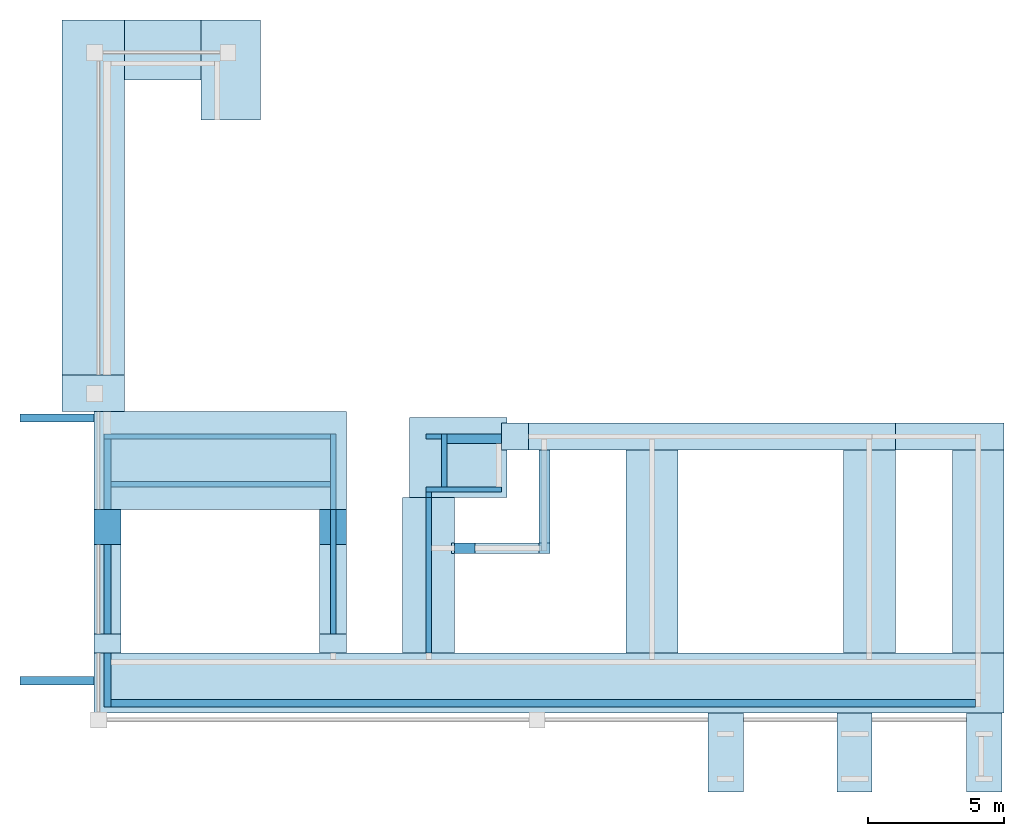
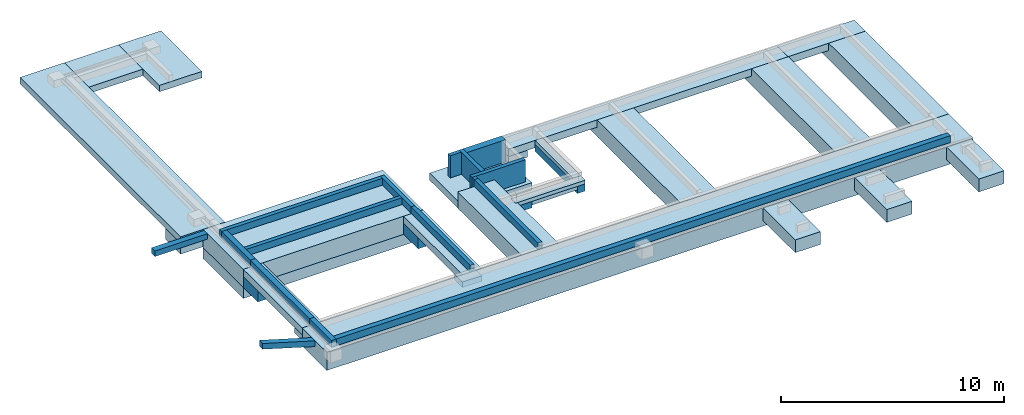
# One storey, part 1 of 4: 15 footings, 14 slabs, 14 walls, 2 beams.
"""IFC2X3 building model written with IfcOpenShell, lengths in metres."""

from ifc_helpers import new_model, entity, si_unit, converted_unit, derived_unit, direction, frame, frame_2d, origin, origin_2d_with_axis, place, context, subcontext, project, spatial, polyline, rectangle, outline, extrude, clip, halfspace, faceted_brep, material, layer, layer_set, layer_usage, type_object, element, save


model = new_model("IFC2X3")

# Units and contexts
model_context = context("Model", 3, precision=1e-05, world=origin(), true_north=direction((6.12303176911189e-17, 1.0)))
body_context = subcontext(model_context, "Body", "Model", "MODEL_VIEW")
ifc_project = project(units=[si_unit("LENGTHUNIT", "METRE"), si_unit("AREAUNIT", "SQUARE_METRE"), si_unit("VOLUMEUNIT", "CUBIC_METRE"), converted_unit("PLANEANGLEUNIT", "DEGREE", entity("IfcRatioMeasure", 0.0174532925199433), si_unit("PLANEANGLEUNIT", "RADIAN"), dimensions=[0, 0, 0, 0, 0, 0, 0]), si_unit("MASSUNIT", "GRAM", prefix="KILO"), derived_unit("MASSDENSITYUNIT", [(si_unit("MASSUNIT", "GRAM", prefix="KILO"), 1), (si_unit("LENGTHUNIT", "METRE"), -3)]), si_unit("TIMEUNIT", "SECOND"), si_unit("FREQUENCYUNIT", "HERTZ"), si_unit("THERMODYNAMICTEMPERATUREUNIT", "DEGREE_CELSIUS"), derived_unit("THERMALTRANSMITTANCEUNIT", [(si_unit("MASSUNIT", "GRAM", prefix="KILO"), 1), (si_unit("THERMODYNAMICTEMPERATUREUNIT", "KELVIN"), -1), (si_unit("TIMEUNIT", "SECOND"), -3)]), derived_unit("VOLUMETRICFLOWRATEUNIT", [(si_unit("LENGTHUNIT", "METRE"), 3), (si_unit("TIMEUNIT", "SECOND"), -1)]), si_unit("ELECTRICCURRENTUNIT", "AMPERE"), si_unit("ELECTRICVOLTAGEUNIT", "VOLT"), si_unit("POWERUNIT", "WATT"), si_unit("FORCEUNIT", "NEWTON"), si_unit("ILLUMINANCEUNIT", "LUX"), si_unit("LUMINOUSFLUXUNIT", "LUMEN"), si_unit("LUMINOUSINTENSITYUNIT", "CANDELA"), derived_unit("USERDEFINED", [(si_unit("MASSUNIT", "GRAM", prefix="KILO"), -1), (si_unit("LENGTHUNIT", "METRE"), -2), (si_unit("TIMEUNIT", "SECOND"), 3), (si_unit("LUMINOUSFLUXUNIT", "LUMEN"), 1)]), derived_unit("LINEARVELOCITYUNIT", [(si_unit("LENGTHUNIT", "METRE"), 1), (si_unit("TIMEUNIT", "SECOND"), -1)]), si_unit("PRESSUREUNIT", "PASCAL"), derived_unit("USERDEFINED", [(si_unit("LENGTHUNIT", "METRE"), -2), (si_unit("MASSUNIT", "GRAM", prefix="KILO"), 1), (si_unit("TIMEUNIT", "SECOND"), -2)])], contexts=[model_context])

# Site, building, storey
site_placement = place(None, origin())
site = spatial("IfcSite", under=ifc_project, at=site_placement, Name="Default", CompositionType="ELEMENT")
building_placement = place(site_placement, origin())
building = spatial("IfcBuilding", under=site, at=building_placement, CompositionType="ELEMENT")
storey_placement = place(building_placement, frame((0.0, 0.0, -5.05)))
storey = spatial("IfcBuildingStorey", under=building, at=storey_placement, Name="S02", CompositionType="ELEMENT", Elevation=-5.05)

# Footings
ifc_material_1 = material(Name="Béton - Coulé sur place - Béton")
footing_1_placement = place(storey_placement, origin())
element("IfcFooting", 1, at=footing_1_placement, inside=storey, material=ifc_material_1, Name="Wall Foundation:250x35ht", ObjectType="Wall Foundation:250x35ht", PredefinedType="STRIP_FOOTING", context=body_context, shape_type="SweptSolid", body=[
    extrude(rectangle(XDim=14.401705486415, YDim=2.3, at=frame_2d((-0.957264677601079, -0.164285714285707), x_axis=(1.0, 0.0))), frame((33.1040294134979, -177.892900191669, -0.349999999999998), z_axis=(0.0, 0.0, 1.0), x_axis=(0.0, -1.0, 0.0)), (0.0, 0.0, 1.0), 0.349999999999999),
])
footing_2_placement = place(storey_placement, origin())
element("IfcFooting", 2, at=footing_2_placement, inside=storey, material=ifc_material_1, Name="Wall Foundation:360x100ht", ObjectType="Wall Foundation:360x100ht", PredefinedType="STRIP_FOOTING", context=body_context, shape_type="SweptSolid", body=[
    extrude(rectangle(XDim=9.29999999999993, YDim=3.60000000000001, at=frame_2d((-8.43769498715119e-15, -0.599999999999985), x_axis=(1.0, 0.0))), frame((37.6097436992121, -186.536488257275, -1.0), z_axis=(0.0, 0.0, 1.0), x_axis=(-1.0, 0.0, 0.0)), (0.0, 0.0, 1.0), 1.0),
])
footing_3_placement = place(storey_placement, origin())
element("IfcFooting", 3, at=footing_3_placement, inside=storey, material=ifc_material_1, Name="Wall Foundation:100x40ht", ObjectType="Wall Foundation:100x40ht", PredefinedType="STRIP_FOOTING", context=body_context, shape_type="SweptSolid", body=[
    extrude(rectangle(XDim=14.4899999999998, YDim=1.00000000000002, at=frame_2d((-0.718333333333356, 3.46667139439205e-14), x_axis=(1.0, 0.0))), frame((54.4764103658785, -185.056488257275, -0.4), z_axis=(0.0, 0.0, 1.0), x_axis=(-1.0, 0.0, 0.0)), (0.0, 0.0, 1.0), 0.4),
])
footing_4_placement = place(storey_placement, origin())
element("IfcFooting", 4, at=footing_4_placement, inside=storey, material=ifc_material_1, Name="Wall Foundation:100x40ht", ObjectType="Wall Foundation:100x40ht", PredefinedType="STRIP_FOOTING", context=body_context, shape_type="SweptSolid", body=[
    extrude(rectangle(XDim=3.99999999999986, YDim=1.00000000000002, at=frame_2d((0.0333333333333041, 1.73472347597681e-14), x_axis=(1.0, 0.0))), frame((64.473077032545, -185.056488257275, -0.4), z_axis=(0.0, 0.0, 1.0), x_axis=(-1.0, 0.0, 0.0)), (0.0, 0.0, 1.0), 0.4),
])
footing_5_placement = place(storey_placement, origin())
element("IfcFooting", 5, at=footing_5_placement, inside=storey, material=ifc_material_1, Name="Wall Foundation:220x100ht", ObjectType="Wall Foundation:220x100ht", PredefinedType="STRIP_FOOTING", context=body_context, shape_type="SweptSolid", body=[
    extrude(rectangle(XDim=33.4799999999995, YDim=2.19999999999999, at=frame_2d((-3.5527136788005e-15, -1.73194791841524e-14), x_axis=(1.0, 0.0))), frame((49.6997436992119, -194.129651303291, -1.0), z_axis=(0.0, 0.0, 1.0), x_axis=(-1.0, 0.0, 0.0)), (0.0, 0.0, 1.0), 1.0),
])
footing_6_placement = place(storey_placement, origin())
element("IfcFooting", 6, at=footing_6_placement, inside=storey, material=ifc_material_1, Name="Wall Foundation:40x20ht", ObjectType="Wall Foundation:40x20ht", PredefinedType="STRIP_FOOTING", context=body_context, shape_type="SweptSolid", body=[
    extrude(rectangle(XDim=3.61000000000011, YDim=0.400000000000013, at=frame_2d((-0.0622727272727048, -0.0180380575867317), x_axis=(1.0, 0.0))), frame((47.8624709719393, -189.186107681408, -0.200000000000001), z_axis=(0.0, 0.0, 1.0), x_axis=(-1.0, 0.0, 0.0)), (0.0, 0.0, 1.0), 0.2),
])
footing_7_placement = place(storey_placement, frame((44.3197436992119, -193.029651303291, -0.899999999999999)))
element("IfcFooting", 7, at=footing_7_placement, inside=storey, material=ifc_material_1, Name="Wall Foundation:190x90ht", ObjectType="Wall Foundation:190x90ht", PredefinedType="STRIP_FOOTING", context=body_context, shape_type="Brep", body=[
    faceted_brep([(1.90000000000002, 5.72316304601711, 0.899999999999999), (1.90000000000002, 5.72316304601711, 0.0), (0.0, 5.72316304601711, 0.0), (0.0, 5.72316304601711, 0.899999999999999), (1.90000000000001, 0.0, 0.0), (1.90000000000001, 0.0, 0.899999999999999), (0.0, 0.0, 0.899999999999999), (0.0, 0.0, 0.0), (1.90000000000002, 3.66158167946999, 0.899999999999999), (1.80000000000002, 3.66158167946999, 0.899999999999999), (1.80000000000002, 4.06158167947, 0.899999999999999), (1.90000000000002, 4.06158167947, 0.899999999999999), (1.90000000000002, 4.06158167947, 0.699999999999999), (1.90000000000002, 3.66158167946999, 0.699999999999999), (1.80000000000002, 4.06158167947, 0.699999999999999), (1.80000000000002, 3.66158167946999, 0.699999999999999)], [[[0, 1, 2, 3]], [[4, 5, 6, 7]], [[3, 6, 5, 8, 9, 10, 11, 0]], [[1, 0, 11, 12, 13, 8, 5, 4]], [[2, 1, 4, 7]], [[3, 2, 7, 6]], [[14, 10, 9, 15]], [[15, 9, 8, 13]], [[14, 15, 13, 12]], [[10, 14, 12, 11]]]),
])
footing_8_placement = place(storey_placement, origin())
element("IfcFooting", 8, at=footing_8_placement, inside=storey, material=ifc_material_1, Name="Wall Foundation:190x90ht", ObjectType="Wall Foundation:190x90ht", PredefinedType="STRIP_FOOTING", context=body_context, shape_type="SweptSolid", body=[
    extrude(outline(polyline([(-5.31544203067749, -0.466666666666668), (3.15772101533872, -0.466666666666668), (3.15772101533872, 0.0333333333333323), (2.1577210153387, 0.0333333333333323), (2.1577210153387, 0.433333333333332), (-5.31544203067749, 0.433333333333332), (-5.31544203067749, -0.466666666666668)])), frame((64.5397436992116, -187.714209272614, -0.433333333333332), z_axis=(1.0, 0.0, 0.0), x_axis=(0.0, 1.0, 0.0)), (0.0, 0.0, 1.0), 1.9),
])
footing_9_placement = place(storey_placement, origin())
element("IfcFooting", 9, at=footing_9_placement, inside=storey, material=ifc_material_1, Name="Wall Foundation:190x90ht", ObjectType="Wall Foundation:190x90ht", PredefinedType="STRIP_FOOTING", context=body_context, shape_type="SweptSolid", body=[
    extrude(outline(polyline([(-5.31544203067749, -0.466666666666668), (3.15772101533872, -0.466666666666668), (3.15772101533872, 0.0333333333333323), (2.15772101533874, 0.0333333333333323), (2.1577210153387, 0.433333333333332), (-5.31544203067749, 0.433333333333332), (-5.31544203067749, -0.466666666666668)])), frame((60.5397436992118, -187.714209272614, -0.433333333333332), z_axis=(1.0, 0.0, 0.0), x_axis=(0.0, 1.0, 0.0)), (0.0, 0.0, 1.0), 1.9),
])
footing_10_placement = place(storey_placement, origin())
element("IfcFooting", 10, at=footing_10_placement, inside=storey, material=ifc_material_1, Name="Wall Foundation:190x90ht", ObjectType="Wall Foundation:190x90ht", PredefinedType="STRIP_FOOTING", context=body_context, shape_type="SweptSolid", body=[
    extrude(outline(polyline([(-5.31544203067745, -0.466666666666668), (3.15772101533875, -0.466666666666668), (3.15772101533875, 0.0333333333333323), (2.15772101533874, 0.0333333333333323), (2.15772101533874, 0.433333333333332), (-5.31544203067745, 0.433333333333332), (-5.31544203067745, -0.466666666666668)])), frame((52.5397436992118, -187.714209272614, -0.433333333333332), z_axis=(1.0, 0.0, 0.0), x_axis=(0.0, 1.0, 0.0)), (0.0, 0.0, 1.0), 1.9),
])
footing_11_placement = place(storey_placement, origin())
element("IfcFooting", 11, at=footing_11_placement, inside=storey, material=ifc_material_1, Name="Wall Foundation:100x40ht", ObjectType="Wall Foundation:100x40ht", PredefinedType="STRIP_FOOTING", context=body_context, shape_type="SweptSolid", body=[
    extrude(rectangle(XDim=5.29316304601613, YDim=0.999999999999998, at=frame_2d((0.150000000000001, 4.32986979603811e-15), x_axis=(1.0, 0.0))), frame((41.7597436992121, -190.533069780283, -0.4), z_axis=(0.0, 0.0, 1.0), x_axis=(0.0, 1.0, 0.0)), (0.0, 0.0, 1.0), 0.4),
])
footing_12_placement = place(storey_placement, origin())
element("IfcFooting", 12, at=footing_12_placement, inside=storey, material=ifc_material_1, Name="Wall Foundation:100x40ht", ObjectType="Wall Foundation:100x40ht", PredefinedType="STRIP_FOOTING", context=body_context, shape_type="SweptSolid", body=[
    extrude(rectangle(XDim=5.29316304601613, YDim=0.999999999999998, at=frame_2d((-0.150000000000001, 0.0), x_axis=(1.0, 0.0))), frame((33.4597436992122, -190.533069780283, -0.4), z_axis=(0.0, 0.0, 1.0), x_axis=(0.0, -1.0, 0.0)), (0.0, 0.0, 1.0), 0.4),
])
footing_13_placement = place(storey_placement, origin())
element("IfcFooting", 13, at=footing_13_placement, inside=storey, material=ifc_material_1, Name="Wall Foundation:40x20ht", ObjectType="Wall Foundation:40x20ht", PredefinedType="STRIP_FOOTING", context=body_context, shape_type="SweptSolid", body=[
    extrude(rectangle(XDim=3.41158136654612, YDim=0.399999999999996, at=frame_2d((0.0, 4.32986979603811e-15), x_axis=(1.0, 0.0))), frame((49.5297436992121, -187.262278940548, -0.2), z_axis=(0.0, 0.0, 1.0), x_axis=(0.0, 1.0, 0.0)), (0.0, 0.0, 1.0), 0.2),
])
footing_14_placement = place(storey_placement, origin())
element("IfcFooting", 14, at=footing_14_placement, inside=storey, material=ifc_material_1, Name="Wall Foundation:250x35ht", ObjectType="Wall Foundation:250x35ht", PredefinedType="STRIP_FOOTING", context=body_context, shape_type="SweptSolid", body=[
    extrude(rectangle(XDim=3.67194719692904, YDim=2.2, at=frame_2d((-0.0728052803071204, 0.219999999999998), x_axis=(1.0, 0.0))), frame((37.7697436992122, -171.643561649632, -0.349999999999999), z_axis=(0.0, 0.0, 1.0), x_axis=(0.0, -1.0, 0.0)), (0.0, 0.0, 1.0), 0.349999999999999),
])
footing_15_placement = place(storey_placement, origin())
element("IfcFooting", 15, at=footing_15_placement, inside=storey, material=ifc_material_1, Name="Wall Foundation:250x35ht", ObjectType="Wall Foundation:250x35ht", PredefinedType="STRIP_FOOTING", context=body_context, shape_type="SweptSolid", body=[
    extrude(rectangle(XDim=2.79999999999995, YDim=2.19999999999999, at=frame_2d((-4.32986979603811e-15, 0.0), x_axis=(1.0, 0.0))), frame((35.4897436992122, -170.83478277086, -0.350000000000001)), (0.0, 0.0, 1.0), 0.349999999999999),
])

# Beams
ifc_material_2 = material(Name="Béton, coulé sur place gris")
beam_type = type_object("IfcBeamType", Name="30x30ht", PredefinedType="BEAM")
beam_1_placement = place(storey_placement, frame((30.2397436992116, -184.373153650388, 0.0)))
element("IfcBeam", 16, at=beam_1_placement, inside=storey, type_object=beam_type, material=ifc_material_2, Name="II-Poutre rectangulaire - Béton:30x30ht", ObjectType="II-Poutre rectangulaire - Béton:30x30ht", context=body_context, shape_type="SweptSolid", body=[
    extrude(rectangle(XDim=0.299999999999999, YDim=0.300000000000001, at=origin_2d_with_axis()), frame((0.0, 0.0, -0.150000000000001), z_axis=(1.0, 0.0, 0.0), x_axis=(0.0, 0.0, -1.0)), (0.0, 0.0, 1.0), 2.72000000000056),
])
beam_2_placement = place(storey_placement, frame((30.2397436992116, -194.042985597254, 0.801200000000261), z_axis=(0.283490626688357, 0.0, 0.958975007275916), x_axis=(0.958975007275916, 0.0, -0.283490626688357)))
element("IfcBeam", 17, at=beam_2_placement, inside=storey, type_object=beam_type, material=ifc_material_2, Name="II-Poutre rectangulaire - Béton:30x30ht", ObjectType="II-Poutre rectangulaire - Béton:30x30ht", context=body_context, shape_type="Clipping", body=[
    clip(clip(extrude(rectangle(XDim=0.300000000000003, YDim=0.300000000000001, at=frame_2d((2.4980018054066e-16, 0.0), x_axis=(1.0, 0.0))), frame((0.0, 0.0, -0.150000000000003), z_axis=(1.0, 0.0, 0.0), x_axis=(0.0, 0.0, -1.0)), (0.0, 0.0, 1.0), 2.925047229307), halfspace(frame((0.0, 1.25000000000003, 0.0), z_axis=(-0.958975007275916, 0.0, -0.283490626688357), x_axis=(0.283490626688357, 0.0, -0.958975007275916)), False)), halfspace(frame((3.43671196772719, 0.683334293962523, -2.03082864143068), z_axis=(0.958975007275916, 0.0, 0.283490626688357), x_axis=(0.0, -1.0, 0.0)), False)),
])

# Slabs
ifc_layer_1 = layer(ifc_material_1, 0.4)
ifc_layer_set_1 = layer_set([ifc_layer_1], Name="Foundation Slab:Radier 40cm")
ifc_layer_usage_1 = layer_usage(ifc_layer_set_1, "AXIS3", "POSITIVE", 0.0)
slab_type_1 = type_object("IfcSlabType", Name="Foundation Slab:Radier 40cm", PredefinedType="BASESLAB", material=ifc_layer_set_1)
slab_1_placement = place(storey_placement, origin())
element("IfcSlab", 18, at=slab_1_placement, inside=storey, type_object=slab_type_1, material=ifc_layer_usage_1, Name="Foundation Slab:Radier 40cm", ObjectType="Foundation Slab:Radier 40cm", PredefinedType="BASESLAB", context=body_context, shape_type="SweptSolid", body=[
    extrude(rectangle(XDim=2.94999999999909, YDim=3.57999999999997, at=frame_2d((0.0, 4.32986979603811e-15), x_axis=(1.0, 0.0))), frame((46.3597436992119, -185.831488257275, -0.84), z_axis=(0.0, 0.0, -1.0), x_axis=(0.0, 1.0, 0.0)), (0.0, 0.0, 1.0), 0.4),
])
ifc_material_3 = material(Name="Béton - Béton coulé sur place")
slab_type_2 = type_object("IfcSlabType", Name="GB-100x100x37ht", PredefinedType="FLOOR", material=ifc_material_3)
slab_2_placement = place(storey_placement, origin())
element("IfcSlab", 19, at=slab_2_placement, inside=storey, type_object=slab_type_2, Name="M_Base-Rectangulaire:GB-100x100x37ht", ObjectType="M_Base-Rectangulaire:GB-100x100x37ht", PredefinedType="FLOOR", context=body_context, shape_type="SweptSolid", body=[
    extrude(rectangle(XDim=1.00000000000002, YDim=0.999999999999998, at=frame_2d((1.73472347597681e-14, 0.0), x_axis=(1.0, 0.0))), frame((48.4497436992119, -185.056488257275, -0.770000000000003), z_axis=(0.0, 0.0, 1.0), x_axis=(0.0, 1.0, 0.0)), (0.0, 0.0, 1.0), 0.37),
])
slab_type_3 = type_object("IfcSlabType", Name="GB-130x100x60ht", PredefinedType="FLOOR", material=ifc_material_3)
slab_3_placement = place(storey_placement, origin())
element("IfcSlab", 20, at=slab_3_placement, inside=storey, type_object=slab_type_3, Name="M_Base-Rectangulaire:GB-130x100x60ht", ObjectType="M_Base-Rectangulaire:GB-130x100x60ht", PredefinedType="FLOOR", context=body_context, shape_type="SweptSolid", body=[
    extrude(rectangle(XDim=0.999999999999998, YDim=1.30000000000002, at=frame_2d((0.0, -1.73194791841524e-14), x_axis=(1.0, 0.0))), frame((41.7597436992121, -188.386488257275, -1.0)), (0.0, 0.0, 1.0), 0.6),
])
slab_type_4 = type_object("IfcSlabType", Name="GB-40x381x40ht", PredefinedType="FLOOR", material=ifc_material_3)
slab_4_placement = place(storey_placement, origin())
element("IfcSlab", 21, at=slab_4_placement, inside=storey, type_object=slab_type_4, Name="M_Base-Rectangulaire:GB-40x381x40ht", ObjectType="M_Base-Rectangulaire:GB-40x381x40ht", PredefinedType="FLOOR", context=body_context, shape_type="SweptSolid", body=[
    extrude(rectangle(XDim=0.399999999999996, YDim=3.81, at=origin_2d_with_axis()), frame((49.5297436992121, -187.461488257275, -0.6)), (0.0, 0.0, 1.0), 0.4),
])
slab_type_5 = type_object("IfcSlabType", Name="GB-40x235x20ht", PredefinedType="FLOOR", material=ifc_material_3)
slab_5_placement = place(storey_placement, origin())
element("IfcSlab", 22, at=slab_5_placement, inside=storey, type_object=slab_type_5, Name="M_Base-Rectangulaire:GB-40x235x20ht", ObjectType="M_Base-Rectangulaire:GB-40x235x20ht", PredefinedType="FLOOR", context=body_context, shape_type="SweptSolid", body=[
    extrude(rectangle(XDim=0.400000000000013, YDim=2.35, at=frame_2d((1.73194791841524e-14, 0.0), x_axis=(1.0, 0.0))), frame((48.1547436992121, -189.168069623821, -0.400000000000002), z_axis=(0.0, 0.0, 1.0), x_axis=(0.0, -1.0, 0.0)), (0.0, 0.0, 1.0), 0.2),
])
slab_type_6 = type_object("IfcSlabType", Name="GB-930x360x60ht", PredefinedType="FLOOR", material=ifc_material_3)
slab_6_placement = place(storey_placement, origin())
element("IfcSlab", 23, at=slab_6_placement, inside=storey, type_object=slab_type_6, Name="M_Base-Rectangulaire:GB-930x360x60ht", ObjectType="M_Base-Rectangulaire:GB-930x360x60ht", PredefinedType="FLOOR", context=body_context, shape_type="SweptSolid", body=[
    extrude(rectangle(XDim=3.60000000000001, YDim=9.3, at=origin_2d_with_axis()), frame((37.6097436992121, -185.936488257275, -1.6), z_axis=(0.0, 0.0, 1.0), x_axis=(0.0, -1.0, 0.0)), (0.0, 0.0, 1.0), 0.6),
])
slab_type_7 = type_object("IfcSlabType", Name="GB-130x100x60ht", PredefinedType="FLOOR", material=ifc_material_3)
slab_7_placement = place(storey_placement, origin())
element("IfcSlab", 24, at=slab_7_placement, inside=storey, type_object=slab_type_7, Name="M_Base-Rectangulaire:GB-130x100x60ht", ObjectType="M_Base-Rectangulaire:GB-130x100x60ht", PredefinedType="FLOOR", context=body_context, shape_type="SweptSolid", body=[
    extrude(rectangle(XDim=0.999999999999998, YDim=1.30000000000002, at=frame_2d((0.0, 1.73194791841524e-14), x_axis=(1.0, 0.0))), frame((33.4597436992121, -188.386488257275, -1.0)), (0.0, 0.0, 1.0), 0.6),
])
slab_type_8 = type_object("IfcSlabType", Name="GB-70x100x30ht", PredefinedType="FLOOR", material=ifc_material_3)
slab_8_placement = place(storey_placement, origin())
element("IfcSlab", 25, at=slab_8_placement, inside=storey, type_object=slab_type_8, Name="M_Base-Rectangulaire:GB-70x100x30ht", ObjectType="M_Base-Rectangulaire:GB-70x100x30ht", PredefinedType="FLOOR", context=body_context, shape_type="SweptSolid", body=[
    extrude(rectangle(XDim=0.999999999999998, YDim=0.700000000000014, at=frame_2d((0.0, 1.73194791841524e-14), x_axis=(1.0, 0.0))), frame((41.7597436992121, -192.679651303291, -0.700000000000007)), (0.0, 0.0, 1.0), 0.3),
])
slab_type_9 = type_object("IfcSlabType", Name="GB-70x100x30ht", PredefinedType="FLOOR", material=ifc_material_3)
slab_9_placement = place(storey_placement, origin())
element("IfcSlab", 26, at=slab_9_placement, inside=storey, type_object=slab_type_9, Name="M_Base-Rectangulaire:GB-70x100x30ht", ObjectType="M_Base-Rectangulaire:GB-70x100x30ht", PredefinedType="FLOOR", context=body_context, shape_type="SweptSolid", body=[
    extrude(rectangle(XDim=0.999999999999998, YDim=0.700000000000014, at=frame_2d((0.0, -1.73194791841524e-14), x_axis=(1.0, 0.0))), frame((33.4597436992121, -192.679651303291, -0.700000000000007)), (0.0, 0.0, 1.0), 0.3),
])
slab_type_10 = type_object("IfcSlabType", Name="GB-135x230x60ht", PredefinedType="FLOOR", material=ifc_material_3)
slab_10_placement = place(storey_placement, origin())
element("IfcSlab", 27, at=slab_10_placement, inside=storey, type_object=slab_type_10, Name="M_Base-Rectangulaire:GB-135x230x60ht", ObjectType="M_Base-Rectangulaire:GB-135x230x60ht", PredefinedType="FLOOR", context=body_context, shape_type="SweptSolid", body=[
    extrude(rectangle(XDim=2.3, YDim=1.35000000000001, at=frame_2d((2.22044604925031e-15, 0.0), x_axis=(1.0, 0.0))), frame((32.9397436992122, -183.461488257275, -0.95)), (0.0, 0.0, 1.0), 0.6),
])
slab_type_11 = type_object("IfcSlabType", Name="GB-40x76x35ht", PredefinedType="FLOOR", material=ifc_material_3)
slab_11_placement = place(storey_placement, origin())
element("IfcSlab", 28, at=slab_11_placement, inside=storey, type_object=slab_type_11, Name="M_Base-Rectangulaire:GB-40x76x35ht", ObjectType="M_Base-Rectangulaire:GB-40x76x35ht", PredefinedType="FLOOR", context=body_context, shape_type="SweptSolid", body=[
    extrude(rectangle(XDim=0.400000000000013, YDim=0.76, at=frame_2d((1.73194791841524e-14, 0.0), x_axis=(1.0, 0.0))), frame((46.599743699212, -189.168069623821, -0.549999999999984), z_axis=(0.0, 0.0, 1.0), x_axis=(0.0, -1.0, 0.0)), (0.0, 0.0, 1.0), 0.349999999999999),
])
slab_type_12 = type_object("IfcSlabType", Name="130x290x70ht", PredefinedType="FLOOR", material=ifc_material_3)
slab_12_placement = place(storey_placement, origin())
element("IfcSlab", 29, at=slab_12_placement, inside=storey, type_object=slab_type_12, Name="M_Base-Rectangulaire:130x290x70ht", ObjectType="M_Base-Rectangulaire:130x290x70ht", PredefinedType="FLOOR", context=body_context, shape_type="SweptSolid", body=[
    extrude(rectangle(XDim=1.3, YDim=2.9, at=frame_2d((0.0, 1.73194791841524e-14), x_axis=(1.0, 0.0))), frame((56.1993859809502, -196.679651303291, -0.699999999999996), z_axis=(0.0, 0.0, 1.0), x_axis=(-1.0, 0.0, 0.0)), (0.0, 0.0, 1.0), 0.7),
])
slab_type_13 = type_object("IfcSlabType", Name="130x290x70ht", PredefinedType="FLOOR", material=ifc_material_3)
slab_13_placement = place(storey_placement, origin())
element("IfcSlab", 30, at=slab_13_placement, inside=storey, type_object=slab_type_13, Name="M_Base-Rectangulaire:130x290x70ht", ObjectType="M_Base-Rectangulaire:130x290x70ht", PredefinedType="FLOOR", context=body_context, shape_type="SweptSolid", body=[
    extrude(rectangle(XDim=1.3, YDim=2.9, at=frame_2d((0.0, 1.73194791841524e-14), x_axis=(1.0, 0.0))), frame((60.9423591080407, -196.679651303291, -0.699999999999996), z_axis=(0.0, 0.0, 1.0), x_axis=(-1.0, 0.0, 0.0)), (0.0, 0.0, 1.0), 0.7),
])
slab_type_14 = type_object("IfcSlabType", Name="130x290x70ht", PredefinedType="FLOOR", material=ifc_material_3)
slab_14_placement = place(storey_placement, origin())
element("IfcSlab", 31, at=slab_14_placement, inside=storey, type_object=slab_type_14, Name="M_Base-Rectangulaire:130x290x70ht", ObjectType="M_Base-Rectangulaire:130x290x70ht", PredefinedType="FLOOR", context=body_context, shape_type="SweptSolid", body=[
    extrude(rectangle(XDim=1.3, YDim=2.9, at=frame_2d((0.0, 1.73194791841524e-14), x_axis=(1.0, 0.0))), frame((65.7097436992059, -196.679651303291, -0.699999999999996), z_axis=(0.0, 0.0, 1.0), x_axis=(-1.0, 0.0, 0.0)), (0.0, 0.0, 1.0), 0.7),
])

# Walls
ifc_material_4 = material(Name="Mur par défaut")
ifc_layer_2 = layer(ifc_material_4, 0.2)
ifc_layer_set_2 = layer_set([ifc_layer_2], Name="Basic Wall:Mur BA - 20cm")
ifc_layer_usage_2 = layer_usage(ifc_layer_set_2, "AXIS2", "NEGATIVE", 0.1)
wall_type_1 = type_object("IfcWallType", Name="Basic Wall:Mur BA - 20cm", PredefinedType="STANDARD", material=ifc_layer_set_2)
wall_1_placement = place(storey_placement, frame((45.849743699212, -184.956488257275, -0.84), z_axis=(0.0, 0.0, 1.0), x_axis=(0.0, -1.0, 0.0)))
element("IfcWallStandardCase", 32, at=wall_1_placement, inside=storey, type_object=wall_type_1, material=ifc_layer_usage_2, Name="Basic Wall:Mur BA - 20cm", ObjectType="Basic Wall:Mur BA - 20cm", context=body_context, shape_type="SweptSolid", body=[
    extrude(rectangle(XDim=1.94999999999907, YDim=0.200000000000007, at=frame_2d((0.974999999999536, 0.0), x_axis=(-1.0, 0.0))), origin(), (0.0, 0.0, 1.0), 1.21),
])
ifc_layer_usage_3 = layer_usage(ifc_layer_set_2, "AXIS2", "NEGATIVE", 0.1)
wall_2_placement = place(storey_placement, frame((45.1697436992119, -187.006488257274, -0.84)))
element("IfcWallStandardCase", 33, at=wall_2_placement, inside=storey, type_object=wall_type_1, material=ifc_layer_usage_3, Name="Basic Wall:Mur BA - 20cm", ObjectType="Basic Wall:Mur BA - 20cm", context=body_context, shape_type="SweptSolid", body=[
    extrude(rectangle(XDim=2.77999999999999, YDim=0.200000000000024, at=frame_2d((1.39, 0.0), x_axis=(-1.0, 0.0))), origin(), (0.0, 0.0, 1.0), 1.21),
])
ifc_layer_usage_4 = layer_usage(ifc_layer_set_2, "AXIS2", "NEGATIVE", 0.1)
wall_3_placement = place(storey_placement, frame((45.269743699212, -187.106488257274, -0.84), z_axis=(0.0, 0.0, 1.0), x_axis=(0.0, -1.0, 0.0)))
element("IfcWallStandardCase", 34, at=wall_3_placement, inside=storey, type_object=wall_type_1, material=ifc_layer_usage_4, Name="Basic Wall:Mur BA - 20cm", ObjectType="Basic Wall:Mur BA - 20cm", context=body_context, shape_type="SweptSolid", body=[
    extrude(rectangle(XDim=0.199999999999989, YDim=0.200000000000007, at=frame_2d((0.0999999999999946, -4.11476408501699e-15), x_axis=(-1.0, 0.0))), origin(), (0.0, 0.0, 1.0), 1.21),
])
ifc_layer_usage_5 = layer_usage(ifc_layer_set_2, "AXIS2", "NEGATIVE", 0.1)
wall_4_placement = place(storey_placement, frame((41.6597436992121, -185.056488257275, 0.0), z_axis=(0.0, 0.0, 1.0), x_axis=(-1.0, 0.0, 0.0)))
element("IfcWallStandardCase", 35, at=wall_4_placement, inside=storey, type_object=wall_type_1, material=ifc_layer_usage_5, Name="Basic Wall:Mur BA - 20cm", ObjectType="Basic Wall:Mur BA - 20cm", context=body_context, shape_type="SweptSolid", body=[
    extrude(rectangle(XDim=8.32999999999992, YDim=0.200000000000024, at=frame_2d((4.16499999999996, 5.62050406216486e-16), x_axis=(-1.0, 0.0))), origin(), (0.0, 0.0, 1.0), 0.37),
])
ifc_layer_usage_6 = layer_usage(ifc_layer_set_2, "AXIS2", "NEGATIVE", 0.1)
wall_5_placement = place(storey_placement, frame((41.6597436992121, -186.814488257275, 0.0), z_axis=(0.0, 0.0, 1.0), x_axis=(-1.0, 0.0, 0.0)))
element("IfcWallStandardCase", 36, at=wall_5_placement, inside=storey, type_object=wall_type_1, material=ifc_layer_usage_6, Name="Basic Wall:Mur BA - 20cm", ObjectType="Basic Wall:Mur BA - 20cm", context=body_context, shape_type="SweptSolid", body=[
    extrude(rectangle(XDim=8.06999999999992, YDim=0.200000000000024, at=frame_2d((4.03499999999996, 0.0), x_axis=(-1.0, 0.0))), origin(), (0.0, 0.0, 1.0), 0.37),
])
ifc_layer_usage_7 = layer_usage(ifc_layer_set_2, "AXIS2", "NEGATIVE", 0.1)
wall_6_placement = place(storey_placement, frame((45.1697436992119, -185.056488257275, -0.84)))
element("IfcWallStandardCase", 37, at=wall_6_placement, inside=storey, type_object=wall_type_1, material=ifc_layer_usage_7, Name="Basic Wall:Mur BA - 20cm", ObjectType="Basic Wall:Mur BA - 20cm", context=body_context, shape_type="SweptSolid", body=[
    extrude(rectangle(XDim=0.580000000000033, YDim=0.200000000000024, at=frame_2d((0.290000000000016, 0.0), x_axis=(-1.0, 0.0))), origin(), (0.0, 0.0, 1.0), 1.21),
])
ifc_layer_usage_8 = layer_usage(ifc_layer_set_2, "AXIS2", "NEGATIVE", 0.1)
wall_7_placement = place(storey_placement, frame((45.269743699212, -187.306488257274, 0.0), z_axis=(0.0, 0.0, 1.0), x_axis=(0.0, -1.0, 0.0)))
element("IfcWallStandardCase", 38, at=wall_7_placement, inside=storey, type_object=wall_type_1, material=ifc_layer_usage_8, Name="Basic Wall:Mur BA - 20cm", ObjectType="Basic Wall:Mur BA - 20cm", context=body_context, shape_type="SweptSolid", body=[
    extrude(rectangle(XDim=5.72316304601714, YDim=0.200000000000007, at=frame_2d((2.86158152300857, 1.79023462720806e-15), x_axis=(-1.0, 0.0))), origin(), (0.0, 0.0, 1.0), 0.37),
])
ifc_layer_usage_9 = layer_usage(ifc_layer_set_2, "AXIS2", "NEGATIVE", 0.1)
wall_8_placement = place(storey_placement, frame((41.7597436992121, -193.029651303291, 0.0), z_axis=(0.0, 0.0, 1.0), x_axis=(0.0, 1.0, 0.0)))
element("IfcWallStandardCase", 39, at=wall_8_placement, inside=storey, type_object=wall_type_1, material=ifc_layer_usage_9, Name="Basic Wall:Mur BA - 20cm", ObjectType="Basic Wall:Mur BA - 20cm", context=body_context, shape_type="SweptSolid", body=[
    extrude(rectangle(XDim=5.29316304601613, YDim=0.200000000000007, at=frame_2d((2.64658152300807, 1.33226762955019e-15), x_axis=(-1.0, 0.0))), origin(), (0.0, 0.0, 1.0), 0.37),
])
ifc_layer_usage_10 = layer_usage(ifc_layer_set_2, "AXIS2", "NEGATIVE", 0.1)
wall_9_placement = place(storey_placement, frame((41.7597436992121, -187.736488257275, 0.0), z_axis=(0.0, 0.0, 1.0), x_axis=(0.0, 1.0, 0.0)))
element("IfcWallStandardCase", 40, at=wall_9_placement, inside=storey, type_object=wall_type_1, material=ifc_layer_usage_10, Name="Basic Wall:Mur BA - 20cm", ObjectType="Basic Wall:Mur BA - 20cm", context=body_context, shape_type="SweptSolid", body=[
    extrude(rectangle(XDim=2.77999999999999, YDim=0.200000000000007, at=frame_2d((1.39, -1.36002320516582e-15), x_axis=(-1.0, 0.0))), origin(), (0.0, 0.0, 1.0), 0.37),
])
ifc_layer_3 = layer(ifc_material_4, 0.26)
ifc_layer_set_3 = layer_set([ifc_layer_3], Name="Basic Wall:Mur BA Contre terre - 26cm")
ifc_layer_usage_11 = layer_usage(ifc_layer_set_3, "AXIS2", "NEGATIVE", 0.13)
wall_type_2 = type_object("IfcWallType", Name="Basic Wall:Mur BA Contre terre - 26cm", PredefinedType="STANDARD", material=ifc_layer_set_3)
wall_10_placement = place(storey_placement, frame((33.4597436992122, -185.156488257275, 0.0), z_axis=(0.0, 0.0, 1.0), x_axis=(0.0, -1.0, 0.0)))
element("IfcWallStandardCase", 41, at=wall_10_placement, inside=storey, type_object=wall_type_2, material=ifc_layer_usage_11, Name="Basic Wall:Mur BA Contre terre - 26cm", ObjectType="Basic Wall:Mur BA Contre terre - 26cm", context=body_context, shape_type="SweptSolid", body=[
    extrude(rectangle(XDim=2.58, YDim=0.260000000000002, at=frame_2d((1.29, 1.2490009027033e-16), x_axis=(-1.0, 0.0))), origin(), (0.0, 0.0, 1.0), 0.37),
])
ifc_layer_usage_12 = layer_usage(ifc_layer_set_3, "AXIS2", "NEGATIVE", 0.13)
wall_11_placement = place(storey_placement, frame((33.5897436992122, -194.871320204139, 0.0)))
element("IfcWallStandardCase", 42, at=wall_11_placement, inside=storey, type_object=wall_type_2, material=ifc_layer_usage_12, Name="Basic Wall:Mur BA Contre terre - 26cm", ObjectType="Basic Wall:Mur BA Contre terre - 26cm", context=body_context, shape_type="SweptSolid", body=[
    extrude(rectangle(XDim=31.7999999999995, YDim=0.26000000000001, at=frame_2d((15.8999999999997, 0.0), x_axis=(-1.0, 0.0))), origin(), (0.0, 0.0, 1.0), 0.37),
])
ifc_layer_usage_13 = layer_usage(ifc_layer_set_3, "AXIS2", "NEGATIVE", 0.13)
wall_12_placement = place(storey_placement, frame((33.4597436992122, -193.029651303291, 0.0), z_axis=(0.0, 0.0, 1.0), x_axis=(0.0, -1.0, 0.0)))
element("IfcWallStandardCase", 43, at=wall_12_placement, inside=storey, type_object=wall_type_2, material=ifc_layer_usage_13, Name="Basic Wall:Mur BA Contre terre - 26cm", ObjectType="Basic Wall:Mur BA Contre terre - 26cm", context=body_context, shape_type="SweptSolid", body=[
    extrude(rectangle(XDim=1.97166890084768, YDim=0.260000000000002, at=frame_2d((0.985834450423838, -4.16333634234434e-16), x_axis=(-1.0, 0.0))), origin(), (0.0, 0.0, 1.0), 0.37),
])
ifc_layer_usage_14 = layer_usage(ifc_layer_set_3, "AXIS2", "NEGATIVE", 0.13)
wall_13_placement = place(storey_placement, frame((33.4597436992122, -187.736488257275, 0.0), z_axis=(0.0, 0.0, 1.0), x_axis=(0.0, -1.0, 0.0)))
element("IfcWallStandardCase", 44, at=wall_13_placement, inside=storey, type_object=wall_type_2, material=ifc_layer_usage_14, Name="Basic Wall:Mur BA Contre terre - 26cm", ObjectType="Basic Wall:Mur BA Contre terre - 26cm", context=body_context, shape_type="SweptSolid", body=[
    extrude(rectangle(XDim=5.29316304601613, YDim=0.260000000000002, at=frame_2d((2.64658152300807, 3.60822483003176e-16), x_axis=(-1.0, 0.0))), origin(), (0.0, 0.0, 1.0), 0.37),
])
ifc_layer_4 = layer(ifc_material_4, 0.35)
ifc_layer_set_4 = layer_set([ifc_layer_4], Name="Basic Wall:Mur BA - ASC 35cm")
ifc_layer_usage_15 = layer_usage(ifc_layer_set_4, "AXIS2", "NEGATIVE", 0.175)
wall_type_3 = type_object("IfcWallType", Name="Basic Wall:Mur BA - ASC 35cm", PredefinedType="STANDARD", material=ifc_layer_set_4)
wall_14_placement = place(storey_placement, frame((47.9497436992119, -185.131488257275, -0.84), z_axis=(0.0, 0.0, 1.0), x_axis=(-1.0, 0.0, 0.0)))
element("IfcWallStandardCase", 45, at=wall_14_placement, inside=storey, type_object=wall_type_3, material=ifc_layer_usage_15, Name="Basic Wall:Mur BA - ASC 35cm", ObjectType="Basic Wall:Mur BA - ASC 35cm", context=body_context, shape_type="SweptSolid", body=[
    extrude(rectangle(XDim=1.99999999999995, YDim=0.350000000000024, at=frame_2d((0.999999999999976, 3.4555691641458e-15), x_axis=(-1.0, 0.0))), origin(), (0.0, 0.0, 1.0), 1.21),
])

save(model, "model.ifc")
